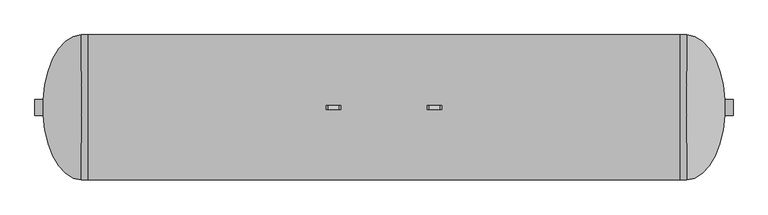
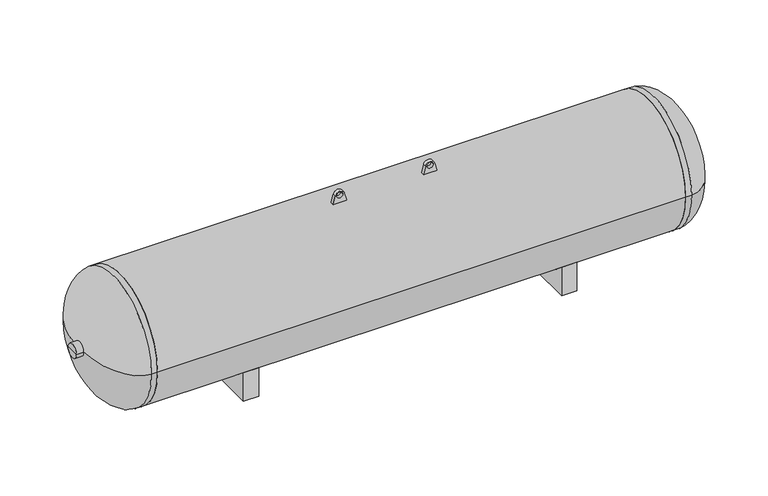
"""IFC4 building model written with IfcOpenShell, lengths in millimetres: proxy geometry, Bulk_Fuel_Tank__5000_Gls_11818 : Bulk_Fuel_Tank__5000_Gls_11818."""

from ifc_helpers import new_model, si_unit, point, frame, frame_2d, origin, place, context, project, spatial, polyline, circle_curve, ellipse_curve, trimmed, segment, composite_curve, outline, extrude, source, transform, mapped, element, save
from ifc_brep_helpers import plane_surface, cylinder_surface, revolved_surface, advanced_brep


def generic_models_99b6d5e4(model_context):
    return source(origin(), model_context, "Body", "SolidModel", [
        extrude(outline(composite_curve([segment(trimmed(circle_curve(frame_2d((0.0, 962.6572696)), 812.8), [point((812.8, 962.6572696))], [point((-812.8, 962.6572696))], False, "CARTESIAN"), True, "CONTINUOUS"), segment(trimmed(circle_curve(frame_2d((0.0, 962.6572696)), 812.8), [point((-812.8, 962.6572696))], [point((812.8, 962.6572696))], False, "CARTESIAN"), True, "CONTINUOUS")], self_intersect=False)), frame((-3308.6, 0.0, 0.0), z_axis=(1.0, 0.0, 0.0), x_axis=(0.0, 1.0, 0.0)), (0.0, 0.0, 1.0), 6617.2),
        advanced_brep(
        [(3308.6, 0.0, 962.6572696), (3308.6, 812.8, 962.6572696), (3308.6, -812.8, 962.6572696), (3905.5, -88.9, 962.6572696), (3905.5, 88.9, 962.6572696), (3905.5, 0.0, 962.6572696), (3814.009441, -88.9, 962.6572696), (3814.009441, 88.9, 962.6572696), (3384.8, -812.8, 962.6572696), (3384.8, 812.8, 962.6572696)],
        [
            (0, 1),
            (1, 2, circle_curve(frame((3308.6, 0.0, 962.6572696), z_axis=(-1.0, 0.0, 0.0), x_axis=(0.0, 1.0, 0.0)), 812.8)),
            (2, 0),
            (2, 1, circle_curve(frame((3308.6, 0.0, 962.6572696), z_axis=(-1.0, 0.0, 0.0), x_axis=(0.0, 1.0, 0.0)), 812.8)),
            (3, 4, circle_curve(frame((3905.5, 0.0, 962.6572696), z_axis=(1.0, 0.0, 0.0), x_axis=(0.0, 1.0, 0.0)), 88.9)),
            (4, 5),
            (5, 3),
            (4, 3, circle_curve(frame((3905.5, 0.0, 962.6572696), z_axis=(1.0, 0.0, 0.0), x_axis=(0.0, 1.0, 0.0)), 88.9)),
            (6, 7, circle_curve(frame((3814.009441, 0.0, 962.6572696), z_axis=(1.0, 0.0, 0.0), x_axis=(0.0, 1.0, 0.0)), 88.9)),
            (7, 4),
            (3, 6),
            (7, 6, circle_curve(frame((3814.009441, 0.0, 962.6572696), z_axis=(1.0, 0.0, 0.0), x_axis=(0.0, 1.0, 0.0)), 88.9)),
            (8, 9, circle_curve(frame((3384.8, 0.0, 962.6572696), z_axis=(1.0, 0.0, 0.0), x_axis=(0.0, 1.0, 0.0)), 812.8)),
            (9, 7, ellipse_curve(frame((3384.8, 0.0, 962.6572696), z_axis=(0.0, 0.0, -1.0), x_axis=(0.0, -1.0, 0.0)), 812.8, 431.8)),
            (6, 8, ellipse_curve(frame((3384.8, 0.0, 962.6572696), z_axis=(0.0, 0.0, -1.0), x_axis=(0.0, 1.0, 0.0)), 812.8, 431.8)),
            (9, 8, circle_curve(frame((3384.8, 0.0, 962.6572696), z_axis=(1.0, 0.0, 0.0), x_axis=(0.0, 1.0, 0.0)), 812.8)),
            (1, 9),
            (8, 2),
        ],
        [
            plane_surface(frame((3308.6, 0.0, 962.6572696), z_axis=(-1.0, 0.0, 0.0), x_axis=(0.0, 1.0, 0.0))),
            plane_surface(frame((3905.5, 0.0, 962.6572696), z_axis=(1.0, 0.0, 0.0), x_axis=(0.0, 1.0, 0.0))),
            cylinder_surface(frame((5150.1, 0.0, 962.6572696), z_axis=(-1.0, 0.0, 0.0), x_axis=(0.0, 1.0, 0.0)), 88.9),
            revolved_surface(trimmed(ellipse_curve(frame((3384.8, 0.0, 962.6572696), z_axis=(0.0, 0.0, 1.0), x_axis=(0.0, -1.0, 0.0)), 812.8, 431.8), [point((3814.009441, 88.9, 962.6572696))], [point((3384.8, 812.8, 962.6572696))], True, "CARTESIAN"), (5150.1, 0.0, 962.6572696), (-1.0, 0.0, 0.0)),
            cylinder_surface(frame((5150.1, 0.0, 962.6572696), z_axis=(-1.0, 0.0, 0.0), x_axis=(0.0, 1.0, 0.0)), 812.8),
        ],
        [
            (0, [[1, 2, 3]]),
            (0, [[-3, 4, -1]]),
            (1, [[5, 6, 7]]),
            (1, [[8, -7, -6]]),
            (2, [[9, 10, -5, 11]]),
            (2, [[12, -11, -8, -10]]),
            (3, [[13, 14, -9, 15]]),
            (3, [[16, -15, -12, -14]]),
            (4, [[-2, 17, -13, 18]]),
            (4, [[-4, -18, -16, -17]]),
        ],
    ),
        advanced_brep(
        [(-3308.6, -812.8, 962.6572696), (-3308.6, 812.8, 962.6572696), (-3308.6, 0.0, 962.6572696), (-3905.5, 0.0, 962.6572696), (-3905.5, 88.9, 962.6572696), (-3905.5, -88.9, 962.6572696), (-3814.009441, 88.9, 962.6572696), (-3814.009441, -88.9, 962.6572696), (-3384.8, 812.8, 962.6572696), (-3384.8, -812.8, 962.6572696)],
        [
            (0, 1, circle_curve(frame((-3308.6, 0.0, 962.6572696), z_axis=(1.0, 0.0, 0.0), x_axis=(0.0, 1.0, 0.0)), 812.8)),
            (1, 2),
            (2, 0),
            (1, 0, circle_curve(frame((-3308.6, 0.0, 962.6572696), z_axis=(1.0, 0.0, 0.0), x_axis=(0.0, 1.0, 0.0)), 812.8)),
            (3, 4),
            (4, 5, circle_curve(frame((-3905.5, 0.0, 962.6572696), z_axis=(-1.0, 0.0, 0.0), x_axis=(0.0, 1.0, 0.0)), 88.9)),
            (5, 3),
            (5, 4, circle_curve(frame((-3905.5, 0.0, 962.6572696), z_axis=(-1.0, 0.0, 0.0), x_axis=(0.0, 1.0, 0.0)), 88.9)),
            (4, 6),
            (6, 7, circle_curve(frame((-3814.009441, 0.0, 962.6572696), z_axis=(-1.0, 0.0, 0.0), x_axis=(0.0, 1.0, 0.0)), 88.9)),
            (7, 5),
            (7, 6, circle_curve(frame((-3814.009441, 0.0, 962.6572696), z_axis=(-1.0, 0.0, 0.0), x_axis=(0.0, 1.0, 0.0)), 88.9)),
            (6, 8, ellipse_curve(frame((-3384.8, 0.0, 962.6572696), z_axis=(0.0, 0.0, -1.0), x_axis=(0.0, -1.0, 0.0)), 812.8, 431.8)),
            (8, 9, circle_curve(frame((-3384.8, 0.0, 962.6572696), z_axis=(-1.0, 0.0, 0.0), x_axis=(0.0, 1.0, 0.0)), 812.8)),
            (9, 7, ellipse_curve(frame((-3384.8, 0.0, 962.6572696), z_axis=(0.0, 0.0, -1.0), x_axis=(0.0, 1.0, 0.0)), 812.8, 431.8)),
            (9, 8, circle_curve(frame((-3384.8, 0.0, 962.6572696), z_axis=(-1.0, 0.0, 0.0), x_axis=(0.0, 1.0, 0.0)), 812.8)),
            (8, 1),
            (0, 9),
        ],
        [
            plane_surface(frame((-3308.6, 0.0, 962.6572696), z_axis=(1.0, 0.0, 0.0), x_axis=(0.0, 1.0, 0.0))),
            plane_surface(frame((-3905.5, 0.0, 962.6572696), z_axis=(-1.0, 0.0, 0.0), x_axis=(0.0, 1.0, 0.0))),
            cylinder_surface(frame((-5150.1, 0.0, 962.6572696), z_axis=(-1.0, 0.0, 0.0), x_axis=(0.0, 1.0, 0.0)), 88.9),
            revolved_surface(trimmed(ellipse_curve(frame((-3384.8, 0.0, 962.6572696), z_axis=(0.0, 0.0, 1.0), x_axis=(0.0, -1.0, 0.0)), 812.8, 431.8), [point((-3384.8, 812.8, 962.6572696))], [point((-3814.009441, 88.9, 962.6572696))], True, "CARTESIAN"), (-5150.1, 0.0, 962.6572696), (-1.0, 0.0, 0.0)),
            cylinder_surface(frame((-5150.1, 0.0, 962.6572696), z_axis=(-1.0, 0.0, 0.0), x_axis=(0.0, 1.0, 0.0)), 812.8),
        ],
        [
            (0, [[1, 2, 3]]),
            (0, [[4, -3, -2]]),
            (1, [[5, 6, 7]]),
            (1, [[-7, 8, -5]]),
            (2, [[-6, 9, 10, 11]]),
            (2, [[-8, -11, 12, -9]]),
            (3, [[-10, 13, 14, 15]]),
            (3, [[-12, -15, 16, -13]]),
            (4, [[-14, 17, -1, 18]]),
            (4, [[-16, -18, -4, -17]]),
        ],
    ),
        extrude(outline(composite_curve([segment(polyline([(566.1195057, 0.0), (-566.1195057, 0.0), (-566.1195057, 379.4312883)]), True, "CONTINUOUS"), segment(trimmed(circle_curve(frame_2d((0.0, 962.6572696)), 812.8), [point((-566.1195057, 379.4312883))], [point((566.1195057, 379.4312883))], True, "CARTESIAN"), True, "CONTINUOUS"), segment(polyline([(566.1195057, 379.4312883), (566.1195057, 0.0)]), True, "CONTINUOUS")], self_intersect=False)), frame((1898.9826547, 0.0, 0.0), z_axis=(1.0, 0.0, 0.0), x_axis=(0.0, 1.0, 0.0)), (0.0, 0.0, 1.0), 190.4173453),
        extrude(outline(composite_curve([segment(polyline([(566.1195057, 0.0), (-566.1195057, 0.0), (-566.1195057, 379.4312883)]), True, "CONTINUOUS"), segment(trimmed(circle_curve(frame_2d((0.0, 962.6572696)), 812.8), [point((-566.1195057, 379.4312883))], [point((566.1195057, 379.4312883))], True, "CARTESIAN"), True, "CONTINUOUS"), segment(polyline([(566.1195057, 379.4312883), (566.1195057, 0.0)]), True, "CONTINUOUS")], self_intersect=False)), frame((-2089.4, 0.0, 0.0), z_axis=(1.0, 0.0, 0.0), x_axis=(0.0, 1.0, 0.0)), (0.0, 0.0, 1.0), 190.4173453),
        extrude(outline(composite_curve([segment(polyline([(1756.3265448, 654.6100943), (1875.9764455, 622.55)]), True, "CONTINUOUS"), segment(trimmed(circle_curve(frame_2d((1860.6631492, 565.4)), 59.1660337), [point((1875.9764455, 622.55))], [point((1875.9764455, 508.25))], False, "CARTESIAN"), True, "CONTINUOUS"), segment(polyline([(1875.9764455, 508.25), (1756.3265448, 476.1899057), (1756.3265448, 654.6100943)]), True, "CONTINUOUS")], self_intersect=False), holes=[composite_curve([segment(trimmed(circle_curve(frame_2d((1871.297613, 565.4)), 38.1), [point((1871.297613, 527.3))], [point((1871.297613, 603.5))], True, "CARTESIAN"), True, "CONTINUOUS"), segment(trimmed(circle_curve(frame_2d((1871.297613, 565.4)), 38.1), [point((1871.297613, 603.5))], [point((1871.297613, 527.3))], True, "CARTESIAN"), True, "CONTINUOUS")], self_intersect=False)]), frame((0.0, -22.8085402, 0.0), z_axis=(0.0, 1.0, 0.0), x_axis=(0.0, 0.0, 1.0)), (0.0, 0.0, 1.0), 43.5931835),
        extrude(outline(composite_curve([segment(polyline([(1756.3265448, -654.6100943), (1756.3265448, -476.1899057), (1875.9764455, -508.25)]), True, "CONTINUOUS"), segment(trimmed(circle_curve(frame_2d((1860.6631492, -565.4)), 59.1660337), [point((1875.9764455, -508.25))], [point((1875.9764455, -622.55))], False, "CARTESIAN"), True, "CONTINUOUS"), segment(polyline([(1875.9764455, -622.55), (1756.3265448, -654.6100943)]), True, "CONTINUOUS")], self_intersect=False), holes=[composite_curve([segment(trimmed(circle_curve(frame_2d((1871.297613, -565.4)), 38.1), [point((1871.297613, -527.3))], [point((1871.297613, -603.5))], True, "CARTESIAN"), True, "CONTINUOUS"), segment(trimmed(circle_curve(frame_2d((1871.297613, -565.4)), 38.1), [point((1871.297613, -603.5))], [point((1871.297613, -527.3))], True, "CARTESIAN"), True, "CONTINUOUS")], self_intersect=False)]), frame((0.0, -22.8085402, 0.0), z_axis=(0.0, 1.0, 0.0), x_axis=(0.0, 0.0, 1.0)), (0.0, 0.0, 1.0), 43.5931835),
    ])


if __name__ == "__main__":
    model = new_model("IFC4")
    model_context = context("Model", 3, world=origin())
    ifc_project = project(units=[si_unit("LENGTHUNIT", "METRE", prefix="MILLI")], contexts=[model_context])
    site = spatial("IfcSite", under=ifc_project)
    building = spatial("IfcBuilding", under=site)
    placement = place(None, origin())
    generic_models_shape = generic_models_99b6d5e4(model_context)
    element("IfcBuildingElementProxy", 1, Name="Bulk_Fuel_Tank__5000_Gls_11818 : Bulk_Fuel_Tank__5000_Gls_11818", ObjectType="Bulk_Fuel_Tank__5000_Gls_11818 : Bulk_Fuel_Tank__5000_Gls_11818", at=placement, inside=building, context=model_context, shape_type="MappedRepresentation", body=[
        mapped(generic_models_shape, transform((0.0, 0.0, 0.0), x_axis=(1.0, 0.0, 0.0), y_axis=(0.0, 1.0, 0.0), z_axis=(0.0, 0.0, 1.0))),
    ])
    save(model, "model.ifc")
